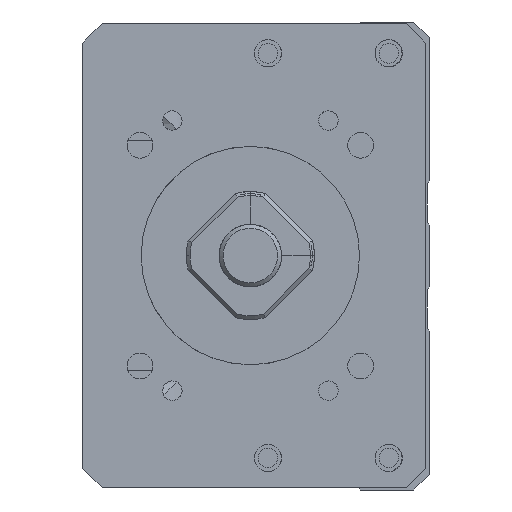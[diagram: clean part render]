
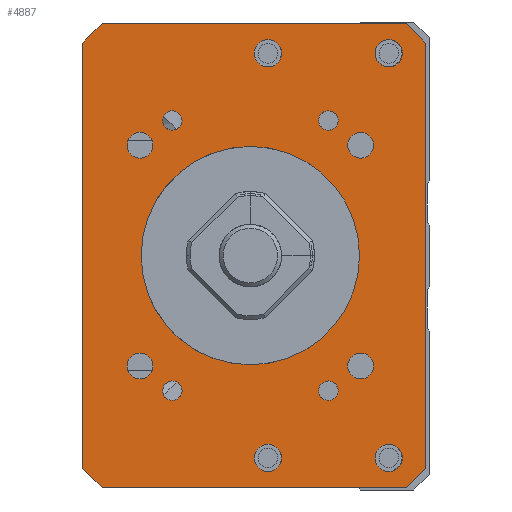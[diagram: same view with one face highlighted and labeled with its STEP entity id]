
A CAD part, left-side view. The second image highlights one B-rep face of the part: STEP entity #4887.
In plain terms, the highlighted planar face has unit normal (-1, 0, 0).
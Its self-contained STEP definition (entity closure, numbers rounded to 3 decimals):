
#3587=FACE_BOUND('',#6206,.T.);
#3588=FACE_BOUND('',#6207,.T.);
#3589=FACE_BOUND('',#6208,.T.);
#3590=FACE_BOUND('',#6209,.T.);
#3591=FACE_BOUND('',#6210,.T.);
#3592=FACE_BOUND('',#6211,.T.);
#3593=FACE_BOUND('',#6212,.T.);
#3594=FACE_BOUND('',#6213,.T.);
#3595=FACE_BOUND('',#6214,.T.);
#3596=FACE_BOUND('',#6215,.T.);
#3597=FACE_BOUND('',#6216,.T.);
#3598=FACE_BOUND('',#6217,.T.);
#3599=FACE_BOUND('',#6218,.T.);
#3600=FACE_BOUND('',#6219,.T.);
#4042=CIRCLE('',#14231,14.);
#4051=CIRCLE('',#14242,1.65);
#4052=CIRCLE('',#14243,1.65);
#4053=CIRCLE('',#14244,1.65);
#4054=CIRCLE('',#14245,1.65);
#4055=CIRCLE('',#14246,1.25);
#4056=CIRCLE('',#14247,1.75);
#4057=CIRCLE('',#14248,1.25);
#4058=CIRCLE('',#14249,1.75);
#4059=CIRCLE('',#14250,1.25);
#4060=CIRCLE('',#14251,1.75);
#4061=CIRCLE('',#14252,1.75);
#4062=CIRCLE('',#14253,1.25);
#4376=PLANE('',#14254);
#4887=ADVANCED_FACE('',(#3587,#3588,#3589,#3590,#3591,#3592,#3593,#3594,
#3595,#3596,#3597,#3598,#3599,#3600),#4376,.F.);
#6206=EDGE_LOOP('',(#7664));
#6207=EDGE_LOOP('',(#7665));
#6208=EDGE_LOOP('',(#7666));
#6209=EDGE_LOOP('',(#7667));
#6210=EDGE_LOOP('',(#7668));
#6211=EDGE_LOOP('',(#7669));
#6212=EDGE_LOOP('',(#7670));
#6213=EDGE_LOOP('',(#7671));
#6214=EDGE_LOOP('',(#7672));
#6215=EDGE_LOOP('',(#7673,#7674,#7675,#7676,#7677,#7678,#7679,#7680));
#6216=EDGE_LOOP('',(#7681));
#6217=EDGE_LOOP('',(#7682));
#6218=EDGE_LOOP('',(#7683));
#6219=EDGE_LOOP('',(#7684));
#7664=ORIENTED_EDGE('',*,*,#11208,.F.);
#7665=ORIENTED_EDGE('',*,*,#11209,.F.);
#7666=ORIENTED_EDGE('',*,*,#11210,.F.);
#7667=ORIENTED_EDGE('',*,*,#11211,.F.);
#7668=ORIENTED_EDGE('',*,*,#11212,.F.);
#7669=ORIENTED_EDGE('',*,*,#11213,.T.);
#7670=ORIENTED_EDGE('',*,*,#11214,.F.);
#7671=ORIENTED_EDGE('',*,*,#11215,.F.);
#7672=ORIENTED_EDGE('',*,*,#11216,.F.);
#7673=ORIENTED_EDGE('',*,*,#11205,.T.);
#7674=ORIENTED_EDGE('',*,*,#11217,.T.);
#7675=ORIENTED_EDGE('',*,*,#11218,.F.);
#7676=ORIENTED_EDGE('',*,*,#11219,.T.);
#7677=ORIENTED_EDGE('',*,*,#11220,.F.);
#7678=ORIENTED_EDGE('',*,*,#11221,.T.);
#7679=ORIENTED_EDGE('',*,*,#11222,.T.);
#7680=ORIENTED_EDGE('',*,*,#11223,.T.);
#7681=ORIENTED_EDGE('',*,*,#11224,.F.);
#7682=ORIENTED_EDGE('',*,*,#11225,.F.);
#7683=ORIENTED_EDGE('',*,*,#11226,.F.);
#7684=ORIENTED_EDGE('',*,*,#11185,.F.);
#10104=VERTEX_POINT('',#18697);
#10124=VERTEX_POINT('',#18757);
#10125=VERTEX_POINT('',#18759);
#10127=VERTEX_POINT('',#18765);
#10128=VERTEX_POINT('',#18767);
#10129=VERTEX_POINT('',#18769);
#10130=VERTEX_POINT('',#18771);
#10131=VERTEX_POINT('',#18773);
#10132=VERTEX_POINT('',#18775);
#10133=VERTEX_POINT('',#18777);
#10134=VERTEX_POINT('',#18779);
#10135=VERTEX_POINT('',#18781);
#10136=VERTEX_POINT('',#18783);
#10137=VERTEX_POINT('',#18785);
#10138=VERTEX_POINT('',#18787);
#10139=VERTEX_POINT('',#18789);
#10140=VERTEX_POINT('',#18791);
#10141=VERTEX_POINT('',#18793);
#10142=VERTEX_POINT('',#18796);
#10143=VERTEX_POINT('',#18798);
#10144=VERTEX_POINT('',#18800);
#11185=EDGE_CURVE('',#10104,#10104,#4042,.T.);
#11205=EDGE_CURVE('',#10125,#10124,#12454,.T.);
#11208=EDGE_CURVE('',#10127,#10127,#4051,.T.);
#11209=EDGE_CURVE('',#10128,#10128,#4052,.T.);
#11210=EDGE_CURVE('',#10129,#10129,#4053,.T.);
#11211=EDGE_CURVE('',#10130,#10130,#4054,.T.);
#11212=EDGE_CURVE('',#10131,#10131,#4055,.T.);
#11213=EDGE_CURVE('',#10132,#10132,#4056,.T.);
#11214=EDGE_CURVE('',#10133,#10133,#4057,.T.);
#11215=EDGE_CURVE('',#10134,#10134,#4058,.T.);
#11216=EDGE_CURVE('',#10135,#10135,#4059,.T.);
#11217=EDGE_CURVE('',#10124,#10136,#12456,.T.);
#11218=EDGE_CURVE('',#10137,#10136,#12457,.T.);
#11219=EDGE_CURVE('',#10137,#10138,#12458,.T.);
#11220=EDGE_CURVE('',#10139,#10138,#12459,.T.);
#11221=EDGE_CURVE('',#10139,#10140,#12460,.T.);
#11222=EDGE_CURVE('',#10140,#10141,#12461,.T.);
#11223=EDGE_CURVE('',#10141,#10125,#12462,.T.);
#11224=EDGE_CURVE('',#10142,#10142,#4060,.T.);
#11225=EDGE_CURVE('',#10143,#10143,#4061,.T.);
#11226=EDGE_CURVE('',#10144,#10144,#4062,.T.);
#12454=LINE('',#18758,#13275);
#12456=LINE('',#18782,#13277);
#12457=LINE('',#18784,#13278);
#12458=LINE('',#18786,#13279);
#12459=LINE('',#18788,#13280);
#12460=LINE('',#18790,#13281);
#12461=LINE('',#18792,#13282);
#12462=LINE('',#18794,#13283);
#13275=VECTOR('',#15682,1.);
#13277=VECTOR('',#15706,1.);
#13278=VECTOR('',#15707,1.);
#13279=VECTOR('',#15708,1.);
#13280=VECTOR('',#15709,1.);
#13281=VECTOR('',#15710,1.);
#13282=VECTOR('',#15711,1.);
#13283=VECTOR('',#15712,1.);
#14231=AXIS2_PLACEMENT_3D('',#18696,#15656,#15657);
#14242=AXIS2_PLACEMENT_3D('',#18764,#15688,#15689);
#14243=AXIS2_PLACEMENT_3D('',#18766,#15690,#15691);
#14244=AXIS2_PLACEMENT_3D('',#18768,#15692,#15693);
#14245=AXIS2_PLACEMENT_3D('',#18770,#15694,#15695);
#14246=AXIS2_PLACEMENT_3D('',#18772,#15696,#15697);
#14247=AXIS2_PLACEMENT_3D('',#18774,#15698,#15699);
#14248=AXIS2_PLACEMENT_3D('',#18776,#15700,#15701);
#14249=AXIS2_PLACEMENT_3D('',#18778,#15702,#15703);
#14250=AXIS2_PLACEMENT_3D('',#18780,#15704,#15705);
#14251=AXIS2_PLACEMENT_3D('',#18795,#15713,#15714);
#14252=AXIS2_PLACEMENT_3D('',#18797,#15715,#15716);
#14253=AXIS2_PLACEMENT_3D('',#18799,#15717,#15718);
#14254=AXIS2_PLACEMENT_3D('',#18801,#15719,#15720);
#15656=DIRECTION('',(-1.,0.,0.));
#15657=DIRECTION('',(0.,1.,0.));
#15682=DIRECTION('',(0.,0.,-1.));
#15688=DIRECTION('',(-1.,0.,0.));
#15689=DIRECTION('',(0.,0.,1.));
#15690=DIRECTION('',(-1.,0.,0.));
#15691=DIRECTION('',(0.,0.,1.));
#15692=DIRECTION('',(-1.,0.,0.));
#15693=DIRECTION('',(0.,0.,1.));
#15694=DIRECTION('',(-1.,0.,0.));
#15695=DIRECTION('',(0.,0.,1.));
#15696=DIRECTION('',(-1.,0.,0.));
#15697=DIRECTION('',(0.,1.,0.));
#15698=DIRECTION('',(1.,0.,0.));
#15699=DIRECTION('',(0.,0.,1.));
#15700=DIRECTION('',(-1.,0.,0.));
#15701=DIRECTION('',(0.,1.,0.));
#15702=DIRECTION('',(-1.,0.,0.));
#15703=DIRECTION('',(0.,0.,1.));
#15704=DIRECTION('',(-1.,0.,0.));
#15705=DIRECTION('',(0.,1.,0.));
#15706=DIRECTION('',(0.,-0.707,-0.707));
#15707=DIRECTION('',(0.,1.,0.));
#15708=DIRECTION('',(0.,-0.707,0.707));
#15709=DIRECTION('',(0.,0.,-1.));
#15710=DIRECTION('',(0.,0.707,0.707));
#15711=DIRECTION('',(0.,1.,0.));
#15712=DIRECTION('',(0.,0.707,-0.707));
#15713=DIRECTION('',(-1.,0.,0.));
#15714=DIRECTION('',(0.,0.,1.));
#15715=DIRECTION('',(-1.,0.,0.));
#15716=DIRECTION('',(0.,0.,1.));
#15717=DIRECTION('',(-1.,0.,0.));
#15718=DIRECTION('',(0.,1.,0.));
#15719=DIRECTION('',(1.,0.,0.));
#15720=DIRECTION('',(0.,1.,0.));
#18696=CARTESIAN_POINT('',(-211.,0.,-100.));
#18697=CARTESIAN_POINT('',(-211.,14.,-100.));
#18757=CARTESIAN_POINT('',(-211.,21.499,-127.25));
#18758=CARTESIAN_POINT('',(-211.,21.499,-70.25));
#18759=CARTESIAN_POINT('',(-211.,21.499,-72.75));
#18764=CARTESIAN_POINT('',(-211.,14.142,-85.858));
#18765=CARTESIAN_POINT('',(-211.,14.142,-84.208));
#18766=CARTESIAN_POINT('',(-211.,-14.142,-85.858));
#18767=CARTESIAN_POINT('',(-211.,-14.142,-84.208));
#18768=CARTESIAN_POINT('',(-211.,14.142,-114.142));
#18769=CARTESIAN_POINT('',(-211.,14.142,-112.492));
#18770=CARTESIAN_POINT('',(-211.,-14.142,-114.142));
#18771=CARTESIAN_POINT('',(-211.,-14.142,-112.492));
#18772=CARTESIAN_POINT('',(-211.,-10.,-117.321));
#18773=CARTESIAN_POINT('',(-211.,-8.75,-117.321));
#18774=CARTESIAN_POINT('',(-211.,-2.25,-125.936));
#18775=CARTESIAN_POINT('',(-211.,-2.25,-124.186));
#18776=CARTESIAN_POINT('',(-211.,10.,-82.679));
#18777=CARTESIAN_POINT('',(-211.,11.25,-82.679));
#18778=CARTESIAN_POINT('',(-211.,-2.25,-74.064));
#18779=CARTESIAN_POINT('',(-211.,-2.25,-72.314));
#18780=CARTESIAN_POINT('',(-211.,10.,-117.321));
#18781=CARTESIAN_POINT('',(-211.,11.25,-117.321));
#18782=CARTESIAN_POINT('',(-211.,18.999,-129.75));
#18783=CARTESIAN_POINT('',(-211.,18.999,-129.75));
#18784=CARTESIAN_POINT('',(-211.,-22.501,-129.75));
#18785=CARTESIAN_POINT('',(-211.,-20.001,-129.75));
#18786=CARTESIAN_POINT('',(-211.,-22.501,-127.25));
#18787=CARTESIAN_POINT('',(-211.,-22.501,-127.25));
#18788=CARTESIAN_POINT('',(-211.,-22.501,-70.25));
#18789=CARTESIAN_POINT('',(-211.,-22.501,-72.75));
#18790=CARTESIAN_POINT('',(-211.,-22.501,-72.75));
#18791=CARTESIAN_POINT('',(-211.,-20.001,-70.25));
#18792=CARTESIAN_POINT('',(-211.,-22.501,-70.25));
#18793=CARTESIAN_POINT('',(-211.,18.999,-70.25));
#18794=CARTESIAN_POINT('',(-211.,18.999,-70.25));
#18795=CARTESIAN_POINT('',(-211.,-17.75,-74.064));
#18796=CARTESIAN_POINT('',(-211.,-17.75,-72.314));
#18797=CARTESIAN_POINT('',(-211.,-17.75,-125.936));
#18798=CARTESIAN_POINT('',(-211.,-17.75,-124.186));
#18799=CARTESIAN_POINT('',(-211.,-10.,-82.679));
#18800=CARTESIAN_POINT('',(-211.,-8.75,-82.679));
#18801=CARTESIAN_POINT('',(-211.,-22.501,-70.25));
